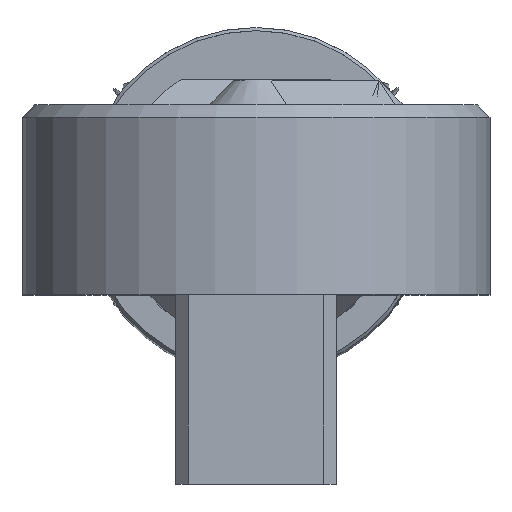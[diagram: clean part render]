
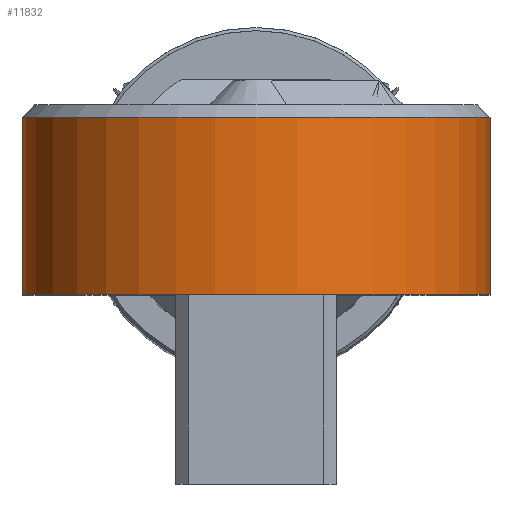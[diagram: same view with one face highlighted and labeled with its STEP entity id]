
A CAD part, top view. The second image highlights one B-rep face of the part: STEP entity #11832.
In plain terms, the highlighted cylindrical face has radius 37 mm (diameter 74 mm), a partial arc.
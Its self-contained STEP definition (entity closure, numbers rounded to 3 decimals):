
#10319=CARTESIAN_POINT('',(0.,2.5,1311.5));
#10320=DIRECTION('',(0.,-1.,0.));
#10321=DIRECTION('',(1.,0.,0.));
#10322=AXIS2_PLACEMENT_3D('',#10319,#10320,#10321);
#10423=CARTESIAN_POINT('',(0.,30.5,1311.5));
#10424=DIRECTION('',(0.,1.,0.));
#10425=DIRECTION('',(-1.,0.,0.));
#10426=AXIS2_PLACEMENT_3D('',#10423,#10424,#10425);
#10770=DIRECTION('',(0.,1.,0.));
#10771=VECTOR('',#10770,28.);
#10772=CARTESIAN_POINT('',(37.,2.5,1311.5));
#10773=LINE('',#10772,#10771);
#10774=DIRECTION('',(0.,-1.,0.));
#10775=VECTOR('',#10774,28.);
#10776=CARTESIAN_POINT('',(-37.,30.5,1311.5));
#10777=LINE('',#10776,#10775);
#10904=CARTESIAN_POINT('',(-37.,30.5,1311.5));
#10906=VERTEX_POINT('',#10904);
#10907=CARTESIAN_POINT('',(37.,30.5,1311.5));
#10908=VERTEX_POINT('',#10907);
#10911=CARTESIAN_POINT('',(37.,2.5,1311.5));
#10912=VERTEX_POINT('',#10911);
#10913=CARTESIAN_POINT('',(-37.,2.5,1311.5));
#10914=VERTEX_POINT('',#10913);
#11820=CARTESIAN_POINT('',(0.,37.,1311.5));
#11821=DIRECTION('',(0.,-1.,0.));
#11822=DIRECTION('',(1.,0.,0.));
#11823=AXIS2_PLACEMENT_3D('',#11820,#11821,#11822);
#11824=CYLINDRICAL_SURFACE('',#11823,37.);
#11825=ORIENTED_EDGE('',*,*,#11632,.F.);
#11826=ORIENTED_EDGE('',*,*,#11111,.T.);
#11828=ORIENTED_EDGE('',*,*,#11827,.F.);
#11829=ORIENTED_EDGE('',*,*,#11246,.T.);
#11830=EDGE_LOOP('',(#11825,#11826,#11828,#11829));
#11831=FACE_OUTER_BOUND('',#11830,.F.);
#10323=CIRCLE('',#10322,37.);
#10427=CIRCLE('',#10426,37.);
#11111=EDGE_CURVE('',#10912,#10914,#10323,.T.);
#11246=EDGE_CURVE('',#10906,#10908,#10427,.T.);
#11632=EDGE_CURVE('',#10912,#10908,#10773,.T.);
#11827=EDGE_CURVE('',#10906,#10914,#10777,.T.);
#11832=ADVANCED_FACE('',(#11831),#11824,.T.);
